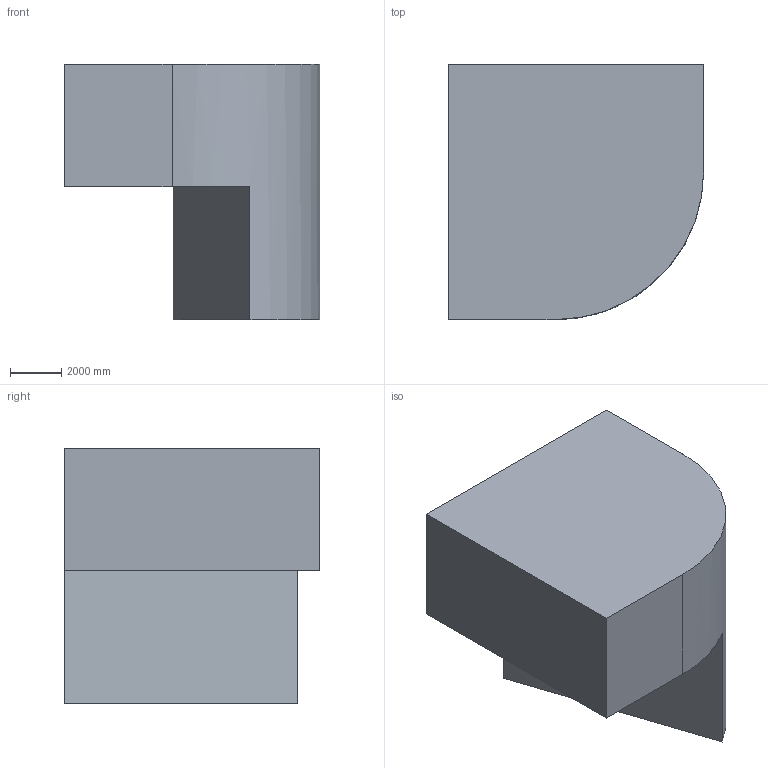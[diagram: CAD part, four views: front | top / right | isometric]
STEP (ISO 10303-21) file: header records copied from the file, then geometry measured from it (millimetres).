
FILE_DESCRIPTION (( 'STEP AP203' ), '1' );
FILE_NAME ('12.STEP', '2022-08-31T11:09:27', ( 'user' ), ( '' ), 'SwSTEP 2.0', 'SolidWorks 2021', '' );
FILE_SCHEMA (( 'CONFIG_CONTROL_DESIGN' ));
Length unit declared in the file: centimetre
Products named in the file (1): 12
Bounding box: 10000 x 10000 x 10000 mm (x, y, z)
Volume: 625335816304.8 mm3; surface area: 497860673.5 mm2
Topology: 1 solids, 1 shells, 9 faces, 21 edges, 14 vertices
Faces by surface type: plane 8, cylinder 1
Entity records: 335 total; most frequent: CARTESIAN_POINT 45, DIRECTION 44, ORIENTED_EDGE 42, EDGE_CURVE 21, LINE 18, VECTOR 18, VERTEX_POINT 14, AXIS2_PLACEMENT_3D 13
